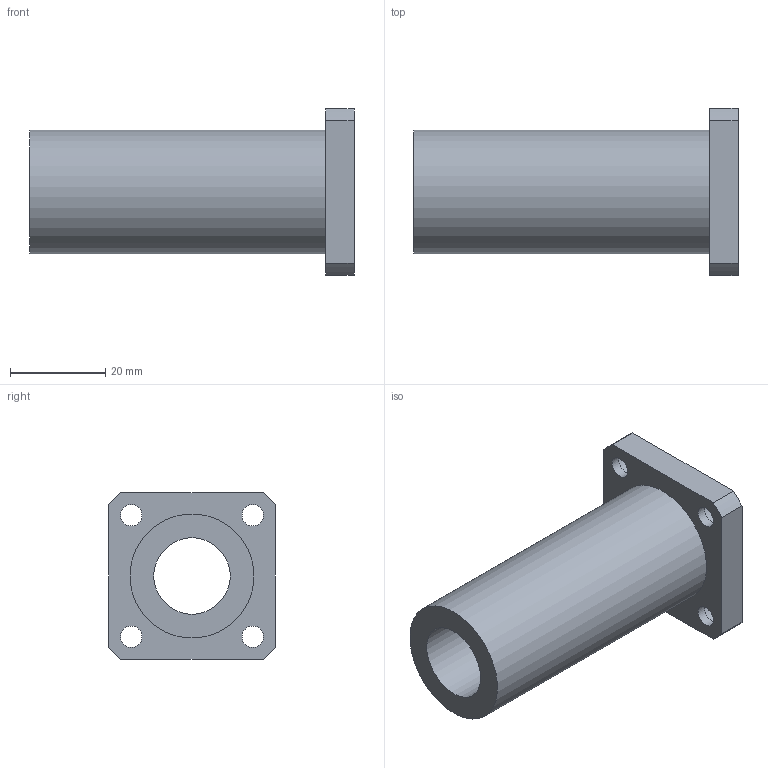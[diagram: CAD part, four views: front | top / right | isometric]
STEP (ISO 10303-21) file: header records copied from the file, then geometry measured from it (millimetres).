
FILE_DESCRIPTION(/* description */ (''),/* implementation_level */ '2;1');
FILE_NAME(/* name */ 'LMEK16LUU',/* time_stamp */ '2019-07-02T15:24:04+02:00',/* author */ ('VĂ©gh MĂˇtĂ©'),/* organization */ ('Bearing Kft'),/* preprocessor_version */ 'ST-DEVELOPER v16.7',/* originating_system */ 'DEX',/* authorisation */ $);
FILE_SCHEMA (('AUTOMOTIVE_DESIGN {1 0 10303 214 3 1 1}'));
Length unit declared in the file: millimetre
Products named in the file (1): LMEK16LUU
Bounding box: 68 x 35 x 35 mm (x, y, z)
Volume: 25672.4 mm3; surface area: 11693.8 mm2
Topology: 1 solids, 1 shells, 347 faces, 876 edges, 584 vertices
Faces by surface type: plane 271, bspline 59, cylinder 17
Full cylindrical faces by diameter (mm): 4.5 x4, 7.5 x4, 16 x1, 26 x1
Entity records: 12992 total; most frequent: CARTESIAN_POINT 4987, ORIENTED_EDGE 1728, DIRECTION 1358, EDGE_CURVE 864, LINE 712, VECTOR 712, VERTEX_POINT 584, EDGE_LOOP 422
